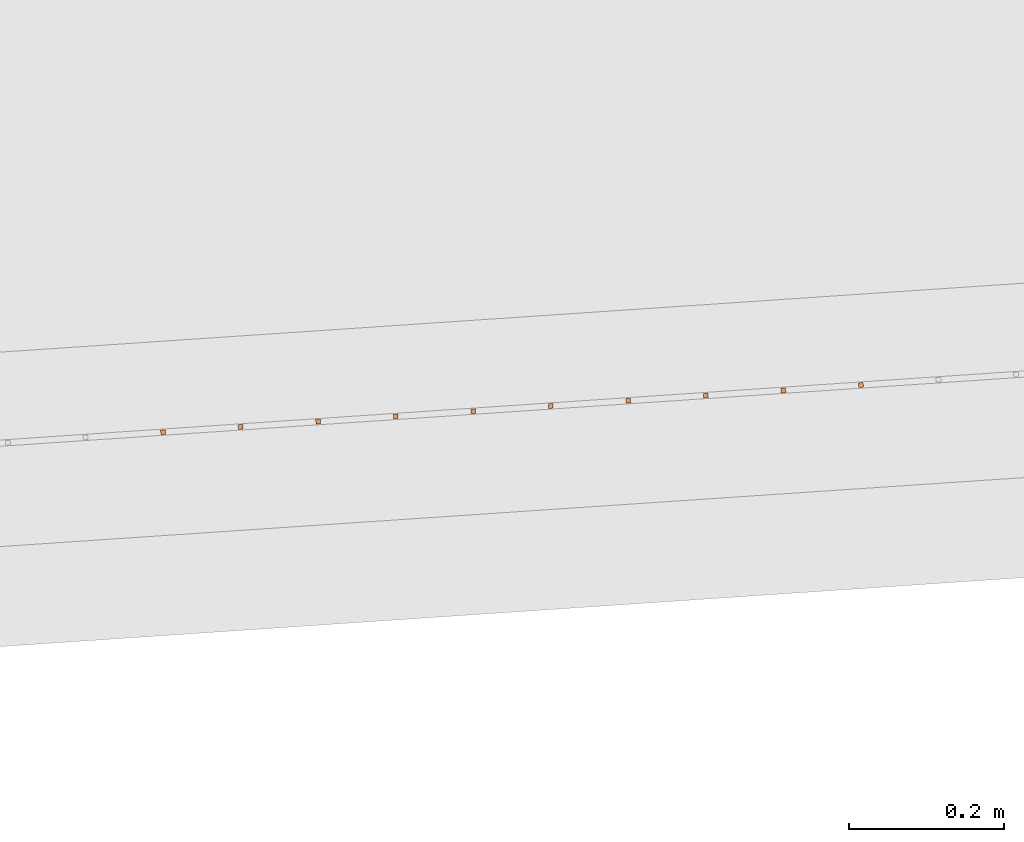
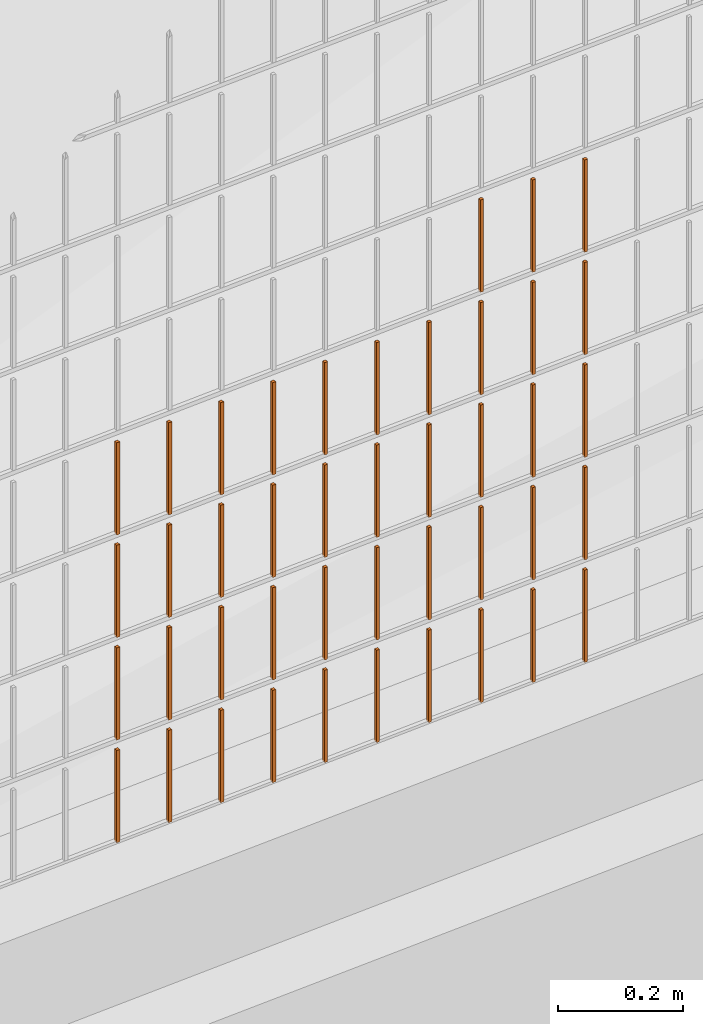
# One storey, part 77 of 1809: 43 proxies, 1 element without a shape of its own.
"""IFC2X3 building model written with IfcOpenShell, lengths in millimetres."""

from ifc_helpers import new_model, entity, si_unit, converted_unit, derived_unit, money_unit, direction, frame, origin_with_axes, place, context, subcontext, project, spatial, faceted_brep, source, transform, mapped, material, type_object, element, aggregate, save


model = new_model("IFC2X3")

# Units and contexts
model_context = context("Model", 3, precision=0.01, world=origin_with_axes(), true_north=direction((0.0, 1.0)))
body_context = subcontext(model_context, "Body", "Model", "MODEL_VIEW")
ifc_project = project(units=[si_unit("LENGTHUNIT", "METRE", prefix="MILLI"), si_unit("AREAUNIT", "SQUARE_METRE"), si_unit("VOLUMEUNIT", "CUBIC_METRE"), converted_unit("PLANEANGLEUNIT", "DEGREE", entity("IfcPlaneAngleMeasure", 0.0174532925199), si_unit("PLANEANGLEUNIT", "RADIAN"), dimensions=[0, 0, 0, 0, 0, 0, 0]), si_unit("SOLIDANGLEUNIT", "STERADIAN"), money_unit("EUR"), converted_unit("TIMEUNIT", "Year", entity("IfcTimeMeasure", 31556926.0), si_unit("TIMEUNIT", "SECOND"), dimensions=[0, 0, 1, 0, 0, 0, 0]), si_unit("MASSUNIT", "GRAM", prefix="KILO"), si_unit("THERMODYNAMICTEMPERATUREUNIT", "DEGREE_CELSIUS"), si_unit("LUMINOUSINTENSITYUNIT", "LUMEN"), si_unit("ENERGYUNIT", "JOULE", prefix="MEGA"), derived_unit("THERMALCONDUCTANCEUNIT", [(si_unit("POWERUNIT", "WATT"), 1), (si_unit("LENGTHUNIT", "METRE"), -1), (si_unit("THERMODYNAMICTEMPERATUREUNIT", "KELVIN"), -1)]), derived_unit("SPECIFICHEATCAPACITYUNIT", [(si_unit("ENERGYUNIT", "JOULE"), 1), (si_unit("MASSUNIT", "GRAM", prefix="KILO"), -1), (si_unit("THERMODYNAMICTEMPERATUREUNIT", "KELVIN"), -1)]), derived_unit("MASSDENSITYUNIT", [(si_unit("MASSUNIT", "GRAM", prefix="KILO"), 1), (si_unit("VOLUMEUNIT", "CUBIC_METRE"), -1)])], contexts=[model_context])

# Site, building, storey
site_placement = place(None, origin_with_axes())
site = spatial("IfcSite", under=ifc_project, at=site_placement, Name="Politse- ja Piirivalveameti ning Päästeameti ühishoone", CompositionType="ELEMENT")
building_placement = place(site_placement, origin_with_axes())
building = spatial("IfcBuilding", under=site, at=building_placement, Name="Politse- ja Piirivalveameti ning Päästeameti ühishoone", CompositionType="ELEMENT")
storey_placement = place(building_placement, origin_with_axes())
storey = spatial("IfcBuildingStorey", under=building, at=storey_placement, Name="Esimene korrus", CompositionType="ELEMENT", Elevation=0.0)

# Proxies
building_element_proxy_type_1 = type_object("IfcBuildingElementProxyType", Name="Railing Type", PredefinedType="NOTDEFINED")
proxy_1_placement = place(storey_placement, frame((89252.001212, -29183.4766571, 203.661247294), z_axis=(0.0, 0.0, 1.0), x_axis=(1.0, 0.0, 0.0)))
proxy_1 = element("IfcBuildingElementProxy", 1, at=proxy_1_placement, inside=storey, type_object=building_element_proxy_type_1, Name="PIIRDEAED")
ifc_material = material(Name="ET-03_Raud")
building_element_proxy_type_2 = type_object("IfcBuildingElementProxyType", Name="IfcBuildingElementProxy", PredefinedType="NOTDEFINED")
shared_shape_1 = source(origin_with_axes(), body_context, "Body", "Brep", [
    faceted_brep([(3.0, 3.0, -0.000752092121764), (-3.0, 3.0, -0.000752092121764), (-3.0, 3.0, 179.99926046), (3.0, 3.0, 179.99926046), (3.0, -3.0, 0.000752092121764), (-3.0, -3.0, 0.000752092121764), (-3.0, -3.0, 180.000764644), (3.0, -3.0, 180.000764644)], [[[0, 1, 2, 3]], [[0, 4, 5, 1]], [[1, 5, 6, 2]], [[3, 2, 6, 7]], [[4, 0, 3, 7]], [[5, 4, 7, 6]]]),
])
proxy_2_placement = place(proxy_1_placement, frame((-103391.095827, -24281.4531008, 801.255446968), z_axis=(0.0, 0.0, 1.0), x_axis=(1.0, 0.0, 0.0)))
proxy_2 = element("IfcBuildingElementProxy", 2, at=proxy_2_placement, type_object=building_element_proxy_type_2, material=ifc_material, Name="BALUSTER - 001", context=body_context, shape_type="MappedRepresentation", body=[
    mapped(shared_shape_1, transform((0.0, 0.0, 0.0), x_axis=(-0.0673926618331, 0.997726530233, 0.0), y_axis=(-0.997726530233, -0.0673926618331, 0.0), z_axis=(0.0, 0.0, 1.0))),
])
shared_shape_2 = source(origin_with_axes(), body_context, "Body", "Brep", [
    faceted_brep([(3.0, 3.0, -0.000752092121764), (-3.0, 3.0, -0.000752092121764), (-3.0, 3.0, 179.99926046), (3.0, 3.0, 179.99926046), (3.0, -3.0, 0.000752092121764), (-3.0, -3.0, 0.000752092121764), (-3.0, -3.0, 180.000764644), (3.0, -3.0, 180.000764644)], [[[0, 1, 2, 3]], [[0, 4, 5, 1]], [[1, 5, 6, 2]], [[3, 2, 6, 7]], [[4, 0, 3, 7]], [[5, 4, 7, 6]]]),
])
proxy_3_placement = place(proxy_1_placement, frame((-103590.641133, -24294.9316332, 201.205307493), z_axis=(0.0, 0.0, 1.0), x_axis=(1.0, 0.0, 0.0)))
proxy_3 = element("IfcBuildingElementProxy", 3, at=proxy_3_placement, type_object=building_element_proxy_type_2, material=ifc_material, Name="BALUSTER - 001", context=body_context, shape_type="MappedRepresentation", body=[
    mapped(shared_shape_2, transform((0.0, 0.0, 0.0), x_axis=(-0.0673926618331, 0.997726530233, 0.0), y_axis=(-0.997726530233, -0.0673926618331, 0.0), z_axis=(0.0, 0.0, 1.0))),
])
shared_shape_3 = source(origin_with_axes(), body_context, "Body", "Brep", [
    faceted_brep([(3.0, 3.0, -0.000752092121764), (-3.0, 3.0, -0.000752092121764), (-3.0, 3.0, 179.99926046), (3.0, 3.0, 179.99926046), (3.0, -3.0, 0.000752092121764), (-3.0, -3.0, 0.000752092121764), (-3.0, -3.0, 180.000764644), (3.0, -3.0, 180.000764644)], [[[0, 1, 2, 3]], [[0, 4, 5, 1]], [[1, 5, 6, 2]], [[3, 2, 6, 7]], [[4, 0, 3, 7]], [[5, 4, 7, 6]]]),
])
proxy_4_placement = place(proxy_1_placement, frame((-103391.095827, -24281.4531008, 201.255446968), z_axis=(0.0, 0.0, 1.0), x_axis=(1.0, 0.0, 0.0)))
proxy_4 = element("IfcBuildingElementProxy", 4, at=proxy_4_placement, type_object=building_element_proxy_type_2, material=ifc_material, Name="BALUSTER - 001", context=body_context, shape_type="MappedRepresentation", body=[
    mapped(shared_shape_3, transform((0.0, 0.0, 0.0), x_axis=(-0.0673926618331, 0.997726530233, 0.0), y_axis=(-0.997726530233, -0.0673926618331, 0.0), z_axis=(0.0, 0.0, 1.0))),
])
proxy_5_placement = place(proxy_1_placement, frame((-103391.095827, -24281.4531008, 401.255446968), z_axis=(0.0, 0.0, 1.0), x_axis=(1.0, 0.0, 0.0)))
proxy_5 = element("IfcBuildingElementProxy", 5, at=proxy_5_placement, type_object=building_element_proxy_type_2, material=ifc_material, Name="BALUSTER - 001", context=body_context, shape_type="MappedRepresentation", body=[
    mapped(shared_shape_3, transform((0.0, 0.0, 0.0), x_axis=(-0.0673926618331, 0.997726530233, 0.0), y_axis=(-0.997726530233, -0.0673926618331, 0.0), z_axis=(0.0, 0.0, 1.0))),
])
proxy_6_placement = place(proxy_1_placement, frame((-103590.641133, -24294.9316332, 401.205307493), z_axis=(0.0, 0.0, 1.0), x_axis=(1.0, 0.0, 0.0)))
proxy_6 = element("IfcBuildingElementProxy", 6, at=proxy_6_placement, type_object=building_element_proxy_type_2, material=ifc_material, Name="BALUSTER - 001", context=body_context, shape_type="MappedRepresentation", body=[
    mapped(shared_shape_3, transform((0.0, 0.0, 0.0), x_axis=(-0.0673926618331, 0.997726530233, 0.0), y_axis=(-0.997726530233, -0.0673926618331, 0.0), z_axis=(0.0, 0.0, 1.0))),
])
proxy_7_placement = place(proxy_1_placement, frame((-103989.731745, -24321.8886979, 401.105028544), z_axis=(0.0, 0.0, 1.0), x_axis=(1.0, 0.0, 0.0)))
proxy_7 = element("IfcBuildingElementProxy", 7, at=proxy_7_placement, type_object=building_element_proxy_type_2, material=ifc_material, Name="BALUSTER - 001", context=body_context, shape_type="MappedRepresentation", body=[
    mapped(shared_shape_3, transform((0.0, 0.0, 0.0), x_axis=(-0.0673926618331, 0.997726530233, 0.0), y_axis=(-0.997726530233, -0.0673926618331, 0.0), z_axis=(0.0, 0.0, 1.0))),
])
proxy_8_placement = place(proxy_1_placement, frame((-103391.095827, -24281.4531008, 601.255446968), z_axis=(0.0, 0.0, 1.0), x_axis=(1.0, 0.0, 0.0)))
proxy_8 = element("IfcBuildingElementProxy", 8, at=proxy_8_placement, type_object=building_element_proxy_type_2, material=ifc_material, Name="BALUSTER - 001", context=body_context, shape_type="MappedRepresentation", body=[
    mapped(shared_shape_3, transform((0.0, 0.0, 0.0), x_axis=(-0.0673926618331, 0.997726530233, 0.0), y_axis=(-0.997726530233, -0.0673926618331, 0.0), z_axis=(0.0, 0.0, 1.0))),
])
proxy_9_placement = place(proxy_1_placement, frame((-103989.731745, -24321.8886979, 601.105028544), z_axis=(0.0, 0.0, 1.0), x_axis=(1.0, 0.0, 0.0)))
proxy_9 = element("IfcBuildingElementProxy", 9, at=proxy_9_placement, type_object=building_element_proxy_type_2, material=ifc_material, Name="BALUSTER - 001", context=body_context, shape_type="MappedRepresentation", body=[
    mapped(shared_shape_3, transform((0.0, 0.0, 0.0), x_axis=(-0.0673926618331, 0.997726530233, 0.0), y_axis=(-0.997726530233, -0.0673926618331, 0.0), z_axis=(0.0, 0.0, 1.0))),
])
shared_shape_4 = source(origin_with_axes(), body_context, "Body", "Brep", [
    faceted_brep([(3.0, 3.0, -0.000752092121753), (-3.0, 3.0, -0.000752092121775), (-3.0, 3.0, 179.99926046), (3.0, 3.0, 179.99926046), (3.0, -3.0, 0.000752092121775), (-3.0, -3.0, 0.000752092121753), (-3.0, -3.0, 180.000764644), (3.0, -3.0, 180.000764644)], [[[0, 1, 2, 3]], [[0, 4, 5, 1]], [[1, 5, 6, 2]], [[3, 2, 6, 7]], [[4, 0, 3, 7]], [[5, 4, 7, 6]]]),
])
proxy_10_placement = place(proxy_1_placement, frame((-103291.323174, -24274.7138346, 1.28051670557), z_axis=(0.0, 0.0, 1.0), x_axis=(1.0, 0.0, 0.0)))
proxy_10 = element("IfcBuildingElementProxy", 10, at=proxy_10_placement, type_object=building_element_proxy_type_2, material=ifc_material, Name="BALUSTER - 001", context=body_context, shape_type="MappedRepresentation", body=[
    mapped(shared_shape_4, transform((0.0, 0.0, 0.0), x_axis=(-0.0673926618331, 0.997726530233, 0.0), y_axis=(-0.997726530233, -0.0673926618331, 0.0), z_axis=(0.0, 0.0, 1.0))),
])
proxy_11_placement = place(proxy_1_placement, frame((-103690.413786, -24301.6708994, 1.180237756), z_axis=(0.0, 0.0, 1.0), x_axis=(1.0, 0.0, 0.0)))
proxy_11 = element("IfcBuildingElementProxy", 11, at=proxy_11_placement, type_object=building_element_proxy_type_2, material=ifc_material, Name="BALUSTER - 001", context=body_context, shape_type="MappedRepresentation", body=[
    mapped(shared_shape_4, transform((0.0, 0.0, 0.0), x_axis=(-0.0673926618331, 0.997726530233, 0.0), y_axis=(-0.997726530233, -0.0673926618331, 0.0), z_axis=(0.0, 0.0, 1.0))),
])
proxy_12_placement = place(proxy_1_placement, frame((-103889.959092, -24315.1494317, 1.13009828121), z_axis=(0.0, 0.0, 1.0), x_axis=(1.0, 0.0, 0.0)))
proxy_12 = element("IfcBuildingElementProxy", 12, at=proxy_12_placement, type_object=building_element_proxy_type_2, material=ifc_material, Name="BALUSTER - 001", context=body_context, shape_type="MappedRepresentation", body=[
    mapped(shared_shape_4, transform((0.0, 0.0, 0.0), x_axis=(-0.0673926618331, 0.997726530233, 0.0), y_axis=(-0.997726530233, -0.0673926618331, 0.0), z_axis=(0.0, 0.0, 1.0))),
])
proxy_13_placement = place(proxy_1_placement, frame((-103690.413786, -24301.6708994, 201.180237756), z_axis=(0.0, 0.0, 1.0), x_axis=(1.0, 0.0, 0.0)))
proxy_13 = element("IfcBuildingElementProxy", 13, at=proxy_13_placement, type_object=building_element_proxy_type_2, material=ifc_material, Name="BALUSTER - 001", context=body_context, shape_type="MappedRepresentation", body=[
    mapped(shared_shape_4, transform((0.0, 0.0, 0.0), x_axis=(-0.0673926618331, 0.997726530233, 0.0), y_axis=(-0.997726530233, -0.0673926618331, 0.0), z_axis=(0.0, 0.0, 1.0))),
])
shared_shape_5 = source(origin_with_axes(), body_context, "Body", "Brep", [
    faceted_brep([(3.0, 3.0, -0.000752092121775), (-3.0, 3.0, -0.000752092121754), (-3.0, 3.0, 179.99926046), (3.0, 3.0, 179.99926046), (3.0, -3.0, 0.000752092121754), (-3.0, -3.0, 0.000752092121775), (-3.0, -3.0, 180.000764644), (3.0, -3.0, 180.000764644)], [[[0, 1, 2, 3]], [[0, 4, 5, 1]], [[1, 5, 6, 2]], [[3, 2, 6, 7]], [[4, 0, 3, 7]], [[5, 4, 7, 6]]]),
])
proxy_14_placement = place(proxy_1_placement, frame((-103490.86848, -24288.192367, 201.230377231), z_axis=(0.0, 0.0, 1.0), x_axis=(1.0, 0.0, 0.0)))
proxy_14 = element("IfcBuildingElementProxy", 14, at=proxy_14_placement, type_object=building_element_proxy_type_2, material=ifc_material, Name="BALUSTER - 001", context=body_context, shape_type="MappedRepresentation", body=[
    mapped(shared_shape_5, transform((0.0, 0.0, 0.0), x_axis=(-0.0673926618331, 0.997726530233, 0.0), y_axis=(-0.997726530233, -0.0673926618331, 0.0), z_axis=(0.0, 0.0, 1.0))),
])
proxy_15_placement = place(proxy_1_placement, frame((-104089.504398, -24328.6279641, 201.079958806), z_axis=(0.0, 0.0, 1.0), x_axis=(1.0, 0.0, 0.0)))
proxy_15 = element("IfcBuildingElementProxy", 15, at=proxy_15_placement, type_object=building_element_proxy_type_2, material=ifc_material, Name="BALUSTER - 001", context=body_context, shape_type="MappedRepresentation", body=[
    mapped(shared_shape_5, transform((0.0, 0.0, 0.0), x_axis=(-0.0673926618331, 0.997726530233, 0.0), y_axis=(-0.997726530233, -0.0673926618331, 0.0), z_axis=(0.0, 0.0, 1.0))),
])
proxy_16_placement = place(proxy_1_placement, frame((-104089.504398, -24328.6279641, 401.079958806), z_axis=(0.0, 0.0, 1.0), x_axis=(1.0, 0.0, 0.0)))
proxy_16 = element("IfcBuildingElementProxy", 16, at=proxy_16_placement, type_object=building_element_proxy_type_2, material=ifc_material, Name="BALUSTER - 001", context=body_context, shape_type="MappedRepresentation", body=[
    mapped(shared_shape_5, transform((0.0, 0.0, 0.0), x_axis=(-0.0673926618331, 0.997726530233, 0.0), y_axis=(-0.997726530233, -0.0673926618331, 0.0), z_axis=(0.0, 0.0, 1.0))),
])
proxy_17_placement = place(proxy_1_placement, frame((-103490.86848, -24288.192367, 601.230377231), z_axis=(0.0, 0.0, 1.0), x_axis=(1.0, 0.0, 0.0)))
proxy_17 = element("IfcBuildingElementProxy", 17, at=proxy_17_placement, type_object=building_element_proxy_type_2, material=ifc_material, Name="BALUSTER - 001", context=body_context, shape_type="MappedRepresentation", body=[
    mapped(shared_shape_5, transform((0.0, 0.0, 0.0), x_axis=(-0.0673926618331, 0.997726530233, 0.0), y_axis=(-0.997726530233, -0.0673926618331, 0.0), z_axis=(0.0, 0.0, 1.0))),
])
proxy_18_placement = place(proxy_1_placement, frame((-104089.504398, -24328.6279641, 601.079958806), z_axis=(0.0, 0.0, 1.0), x_axis=(1.0, 0.0, 0.0)))
proxy_18 = element("IfcBuildingElementProxy", 18, at=proxy_18_placement, type_object=building_element_proxy_type_2, material=ifc_material, Name="BALUSTER - 001", context=body_context, shape_type="MappedRepresentation", body=[
    mapped(shared_shape_5, transform((0.0, 0.0, 0.0), x_axis=(-0.0673926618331, 0.997726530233, 0.0), y_axis=(-0.997726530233, -0.0673926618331, 0.0), z_axis=(0.0, 0.0, 1.0))),
])
shared_shape_6 = source(origin_with_axes(), body_context, "Body", "Brep", [
    faceted_brep([(3.0, 3.0, -0.000752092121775), (-3.0, 3.0, -0.000752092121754), (-3.0, 3.0, 179.99926046), (3.0, 3.0, 179.99926046), (3.0, -3.0, 0.000752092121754), (-3.0, -3.0, 0.000752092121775), (-3.0, -3.0, 180.000764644), (3.0, -3.0, 180.000764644)], [[[0, 1, 2, 3]], [[0, 4, 5, 1]], [[1, 5, 6, 2]], [[3, 2, 6, 7]], [[4, 0, 3, 7]], [[5, 4, 7, 6]]]),
])
proxy_19_placement = place(proxy_1_placement, frame((-103490.86848, -24288.192367, 401.230377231), z_axis=(0.0, 0.0, 1.0), x_axis=(1.0, 0.0, 0.0)))
proxy_19 = element("IfcBuildingElementProxy", 19, at=proxy_19_placement, type_object=building_element_proxy_type_2, material=ifc_material, Name="BALUSTER - 001", context=body_context, shape_type="MappedRepresentation", body=[
    mapped(shared_shape_6, transform((0.0, 0.0, 0.0), x_axis=(-0.0673926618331, 0.997726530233, 0.0), y_axis=(-0.997726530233, -0.0673926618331, 0.0), z_axis=(0.0, 0.0, 1.0))),
])
shared_shape_7 = source(origin_with_axes(), body_context, "Body", "Brep", [
    faceted_brep([(3.0, 3.0, -0.000752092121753), (-3.0, 3.0, -0.000752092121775), (-3.0, 3.0, 179.99926046), (3.0, 3.0, 179.99926046), (3.0, -3.0, 0.000752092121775), (-3.0, -3.0, 0.000752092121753), (-3.0, -3.0, 180.000764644), (3.0, -3.0, 180.000764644)], [[[0, 1, 2, 3]], [[0, 4, 5, 1]], [[1, 5, 6, 2]], [[3, 2, 6, 7]], [[4, 0, 3, 7]], [[5, 4, 7, 6]]]),
])
proxy_20_placement = place(proxy_1_placement, frame((-103291.323174, -24274.7138346, 201.280516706), z_axis=(0.0, 0.0, 1.0), x_axis=(1.0, 0.0, 0.0)))
proxy_20 = element("IfcBuildingElementProxy", 20, at=proxy_20_placement, type_object=building_element_proxy_type_2, material=ifc_material, Name="BALUSTER - 001", context=body_context, shape_type="MappedRepresentation", body=[
    mapped(shared_shape_7, transform((0.0, 0.0, 0.0), x_axis=(-0.0673926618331, 0.997726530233, 0.0), y_axis=(-0.997726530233, -0.0673926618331, 0.0), z_axis=(0.0, 0.0, 1.0))),
])
proxy_21_placement = place(proxy_1_placement, frame((-103790.186439, -24308.4101656, 401.155168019), z_axis=(0.0, 0.0, 1.0), x_axis=(1.0, 0.0, 0.0)))
proxy_21 = element("IfcBuildingElementProxy", 21, at=proxy_21_placement, type_object=building_element_proxy_type_2, material=ifc_material, Name="BALUSTER - 001", context=body_context, shape_type="MappedRepresentation", body=[
    mapped(shared_shape_7, transform((0.0, 0.0, 0.0), x_axis=(-0.0673926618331, 0.997726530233, 0.0), y_axis=(-0.997726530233, -0.0673926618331, 0.0), z_axis=(0.0, 0.0, 1.0))),
])
proxy_22_placement = place(proxy_1_placement, frame((-103191.550521, -24267.9745685, 601.305586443), z_axis=(0.0, 0.0, 1.0), x_axis=(1.0, 0.0, 0.0)))
proxy_22 = element("IfcBuildingElementProxy", 22, at=proxy_22_placement, type_object=building_element_proxy_type_2, material=ifc_material, Name="BALUSTER - 001", context=body_context, shape_type="MappedRepresentation", body=[
    mapped(shared_shape_7, transform((0.0, 0.0, 0.0), x_axis=(-0.0673926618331, 0.997726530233, 0.0), y_axis=(-0.997726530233, -0.0673926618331, 0.0), z_axis=(0.0, 0.0, 1.0))),
])
proxy_23_placement = place(proxy_1_placement, frame((-103889.959092, -24315.1494317, 601.130098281), z_axis=(0.0, 0.0, 1.0), x_axis=(1.0, 0.0, 0.0)))
proxy_23 = element("IfcBuildingElementProxy", 23, at=proxy_23_placement, type_object=building_element_proxy_type_2, material=ifc_material, Name="BALUSTER - 001", context=body_context, shape_type="MappedRepresentation", body=[
    mapped(shared_shape_7, transform((0.0, 0.0, 0.0), x_axis=(-0.0673926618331, 0.997726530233, 0.0), y_axis=(-0.997726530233, -0.0673926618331, 0.0), z_axis=(0.0, 0.0, 1.0))),
])
shared_shape_8 = source(origin_with_axes(), body_context, "Body", "Brep", [
    faceted_brep([(3.0, 3.0, -0.000752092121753), (-3.0, 3.0, -0.000752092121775), (-3.0, 3.0, 179.99926046), (3.0, 3.0, 179.99926046), (3.0, -3.0, 0.000752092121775), (-3.0, -3.0, 0.000752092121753), (-3.0, -3.0, 180.000764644), (3.0, -3.0, 180.000764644)], [[[0, 1, 2, 3]], [[0, 4, 5, 1]], [[1, 5, 6, 2]], [[3, 2, 6, 7]], [[4, 0, 3, 7]], [[5, 4, 7, 6]]]),
])
proxy_24_placement = place(proxy_1_placement, frame((-103291.323174, -24274.7138346, 801.280516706), z_axis=(0.0, 0.0, 1.0), x_axis=(1.0, 0.0, 0.0)))
proxy_24 = element("IfcBuildingElementProxy", 24, at=proxy_24_placement, type_object=building_element_proxy_type_2, material=ifc_material, Name="BALUSTER - 001", context=body_context, shape_type="MappedRepresentation", body=[
    mapped(shared_shape_8, transform((0.0, 0.0, 0.0), x_axis=(-0.0673926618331, 0.997726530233, 0.0), y_axis=(-0.997726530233, -0.0673926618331, 0.0), z_axis=(0.0, 0.0, 1.0))),
])
shared_shape_9 = source(origin_with_axes(), body_context, "Body", "Brep", [
    faceted_brep([(3.0, 3.0, -0.000752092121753), (-3.0, 3.0, -0.000752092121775), (-3.0, 3.0, 179.99926046), (3.0, 3.0, 179.99926046), (3.0, -3.0, 0.000752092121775), (-3.0, -3.0, 0.000752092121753), (-3.0, -3.0, 180.000764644), (3.0, -3.0, 180.000764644)], [[[0, 1, 2, 3]], [[0, 4, 5, 1]], [[1, 5, 6, 2]], [[3, 2, 6, 7]], [[4, 0, 3, 7]], [[5, 4, 7, 6]]]),
])
proxy_25_placement = place(proxy_1_placement, frame((-103191.550521, -24267.9745685, 801.305586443), z_axis=(0.0, 0.0, 1.0), x_axis=(1.0, 0.0, 0.0)))
proxy_25 = element("IfcBuildingElementProxy", 25, at=proxy_25_placement, type_object=building_element_proxy_type_2, material=ifc_material, Name="BALUSTER - 001", context=body_context, shape_type="MappedRepresentation", body=[
    mapped(shared_shape_9, transform((0.0, 0.0, 0.0), x_axis=(-0.0673926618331, 0.997726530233, 0.0), y_axis=(-0.997726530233, -0.0673926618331, 0.0), z_axis=(0.0, 0.0, 1.0))),
])
shared_shape_10 = source(origin_with_axes(), body_context, "Body", "Brep", [
    faceted_brep([(3.0, 3.0, -0.000752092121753), (-3.0, 3.0, -0.000752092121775), (-3.0, 3.0, 179.99926046), (3.0, 3.0, 179.99926046), (3.0, -3.0, 0.000752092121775), (-3.0, -3.0, 0.000752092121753), (-3.0, -3.0, 180.000764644), (3.0, -3.0, 180.000764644)], [[[0, 1, 2, 3]], [[0, 4, 5, 1]], [[1, 5, 6, 2]], [[3, 2, 6, 7]], [[4, 0, 3, 7]], [[5, 4, 7, 6]]]),
])
proxy_26_placement = place(proxy_1_placement, frame((-103191.550521, -24267.9745685, 1.30558644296), z_axis=(0.0, 0.0, 1.0), x_axis=(1.0, 0.0, 0.0)))
proxy_26 = element("IfcBuildingElementProxy", 26, at=proxy_26_placement, type_object=building_element_proxy_type_2, material=ifc_material, Name="BALUSTER - 001", context=body_context, shape_type="MappedRepresentation", body=[
    mapped(shared_shape_10, transform((0.0, 0.0, 0.0), x_axis=(-0.0673926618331, 0.997726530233, 0.0), y_axis=(-0.997726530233, -0.0673926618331, 0.0), z_axis=(0.0, 0.0, 1.0))),
])
shared_shape_11 = source(origin_with_axes(), body_context, "Body", "Brep", [
    faceted_brep([(3.0, 3.0, -0.000752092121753), (-3.0, 3.0, -0.000752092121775), (-3.0, 3.0, 179.99926046), (3.0, 3.0, 179.99926046), (3.0, -3.0, 0.000752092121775), (-3.0, -3.0, 0.000752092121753), (-3.0, -3.0, 180.000764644), (3.0, -3.0, 180.000764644)], [[[0, 1, 2, 3]], [[0, 4, 5, 1]], [[1, 5, 6, 2]], [[3, 2, 6, 7]], [[4, 0, 3, 7]], [[5, 4, 7, 6]]]),
])
proxy_27_placement = place(proxy_1_placement, frame((-103191.550521, -24267.9745685, 201.305586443), z_axis=(0.0, 0.0, 1.0), x_axis=(1.0, 0.0, 0.0)))
proxy_27 = element("IfcBuildingElementProxy", 27, at=proxy_27_placement, type_object=building_element_proxy_type_2, material=ifc_material, Name="BALUSTER - 001", context=body_context, shape_type="MappedRepresentation", body=[
    mapped(shared_shape_11, transform((0.0, 0.0, 0.0), x_axis=(-0.0673926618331, 0.997726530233, 0.0), y_axis=(-0.997726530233, -0.0673926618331, 0.0), z_axis=(0.0, 0.0, 1.0))),
])
proxy_28_placement = place(proxy_1_placement, frame((-103790.186439, -24308.4101656, 201.155168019), z_axis=(0.0, 0.0, 1.0), x_axis=(1.0, 0.0, 0.0)))
proxy_28 = element("IfcBuildingElementProxy", 28, at=proxy_28_placement, type_object=building_element_proxy_type_2, material=ifc_material, Name="BALUSTER - 001", context=body_context, shape_type="MappedRepresentation", body=[
    mapped(shared_shape_11, transform((0.0, 0.0, 0.0), x_axis=(-0.0673926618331, 0.997726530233, 0.0), y_axis=(-0.997726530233, -0.0673926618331, 0.0), z_axis=(0.0, 0.0, 1.0))),
])
proxy_29_placement = place(proxy_1_placement, frame((-103889.959092, -24315.1494317, 201.130098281), z_axis=(0.0, 0.0, 1.0), x_axis=(1.0, 0.0, 0.0)))
proxy_29 = element("IfcBuildingElementProxy", 29, at=proxy_29_placement, type_object=building_element_proxy_type_2, material=ifc_material, Name="BALUSTER - 001", context=body_context, shape_type="MappedRepresentation", body=[
    mapped(shared_shape_11, transform((0.0, 0.0, 0.0), x_axis=(-0.0673926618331, 0.997726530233, 0.0), y_axis=(-0.997726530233, -0.0673926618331, 0.0), z_axis=(0.0, 0.0, 1.0))),
])
proxy_30_placement = place(proxy_1_placement, frame((-103191.550521, -24267.9745685, 401.305586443), z_axis=(0.0, 0.0, 1.0), x_axis=(1.0, 0.0, 0.0)))
proxy_30 = element("IfcBuildingElementProxy", 30, at=proxy_30_placement, type_object=building_element_proxy_type_2, material=ifc_material, Name="BALUSTER - 001", context=body_context, shape_type="MappedRepresentation", body=[
    mapped(shared_shape_11, transform((0.0, 0.0, 0.0), x_axis=(-0.0673926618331, 0.997726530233, 0.0), y_axis=(-0.997726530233, -0.0673926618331, 0.0), z_axis=(0.0, 0.0, 1.0))),
])
proxy_31_placement = place(proxy_1_placement, frame((-103291.323174, -24274.7138346, 401.280516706), z_axis=(0.0, 0.0, 1.0), x_axis=(1.0, 0.0, 0.0)))
proxy_31 = element("IfcBuildingElementProxy", 31, at=proxy_31_placement, type_object=building_element_proxy_type_2, material=ifc_material, Name="BALUSTER - 001", context=body_context, shape_type="MappedRepresentation", body=[
    mapped(shared_shape_11, transform((0.0, 0.0, 0.0), x_axis=(-0.0673926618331, 0.997726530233, 0.0), y_axis=(-0.997726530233, -0.0673926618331, 0.0), z_axis=(0.0, 0.0, 1.0))),
])
proxy_32_placement = place(proxy_1_placement, frame((-103690.413786, -24301.6708994, 401.180237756), z_axis=(0.0, 0.0, 1.0), x_axis=(1.0, 0.0, 0.0)))
proxy_32 = element("IfcBuildingElementProxy", 32, at=proxy_32_placement, type_object=building_element_proxy_type_2, material=ifc_material, Name="BALUSTER - 001", context=body_context, shape_type="MappedRepresentation", body=[
    mapped(shared_shape_11, transform((0.0, 0.0, 0.0), x_axis=(-0.0673926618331, 0.997726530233, 0.0), y_axis=(-0.997726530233, -0.0673926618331, 0.0), z_axis=(0.0, 0.0, 1.0))),
])
proxy_33_placement = place(proxy_1_placement, frame((-103889.959092, -24315.1494317, 401.130098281), z_axis=(0.0, 0.0, 1.0), x_axis=(1.0, 0.0, 0.0)))
proxy_33 = element("IfcBuildingElementProxy", 33, at=proxy_33_placement, type_object=building_element_proxy_type_2, material=ifc_material, Name="BALUSTER - 001", context=body_context, shape_type="MappedRepresentation", body=[
    mapped(shared_shape_11, transform((0.0, 0.0, 0.0), x_axis=(-0.0673926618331, 0.997726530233, 0.0), y_axis=(-0.997726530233, -0.0673926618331, 0.0), z_axis=(0.0, 0.0, 1.0))),
])
proxy_34_placement = place(proxy_1_placement, frame((-103291.323174, -24274.7138346, 601.280516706), z_axis=(0.0, 0.0, 1.0), x_axis=(1.0, 0.0, 0.0)))
proxy_34 = element("IfcBuildingElementProxy", 34, at=proxy_34_placement, type_object=building_element_proxy_type_2, material=ifc_material, Name="BALUSTER - 001", context=body_context, shape_type="MappedRepresentation", body=[
    mapped(shared_shape_11, transform((0.0, 0.0, 0.0), x_axis=(-0.0673926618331, 0.997726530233, 0.0), y_axis=(-0.997726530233, -0.0673926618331, 0.0), z_axis=(0.0, 0.0, 1.0))),
])
proxy_35_placement = place(proxy_1_placement, frame((-103690.413786, -24301.6708994, 601.180237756), z_axis=(0.0, 0.0, 1.0), x_axis=(1.0, 0.0, 0.0)))
proxy_35 = element("IfcBuildingElementProxy", 35, at=proxy_35_placement, type_object=building_element_proxy_type_2, material=ifc_material, Name="BALUSTER - 001", context=body_context, shape_type="MappedRepresentation", body=[
    mapped(shared_shape_11, transform((0.0, 0.0, 0.0), x_axis=(-0.0673926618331, 0.997726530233, 0.0), y_axis=(-0.997726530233, -0.0673926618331, 0.0), z_axis=(0.0, 0.0, 1.0))),
])
proxy_36_placement = place(proxy_1_placement, frame((-103790.186439, -24308.4101656, 601.155168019), z_axis=(0.0, 0.0, 1.0), x_axis=(1.0, 0.0, 0.0)))
proxy_36 = element("IfcBuildingElementProxy", 36, at=proxy_36_placement, type_object=building_element_proxy_type_2, material=ifc_material, Name="BALUSTER - 001", context=body_context, shape_type="MappedRepresentation", body=[
    mapped(shared_shape_11, transform((0.0, 0.0, 0.0), x_axis=(-0.0673926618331, 0.997726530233, 0.0), y_axis=(-0.997726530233, -0.0673926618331, 0.0), z_axis=(0.0, 0.0, 1.0))),
])
shared_shape_12 = source(origin_with_axes(), body_context, "Body", "Brep", [
    faceted_brep([(3.0, 3.0, -0.000752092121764), (-3.0, 3.0, -0.000752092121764), (-3.0, 3.0, 179.99926046), (3.0, 3.0, 179.99926046), (3.0, -3.0, 0.000752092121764), (-3.0, -3.0, 0.000752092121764), (-3.0, -3.0, 180.000764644), (3.0, -3.0, 180.000764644)], [[[0, 1, 2, 3]], [[0, 4, 5, 1]], [[1, 5, 6, 2]], [[3, 2, 6, 7]], [[4, 0, 3, 7]], [[5, 4, 7, 6]]]),
])
proxy_37_placement = place(proxy_1_placement, frame((-103989.731745, -24321.8886979, 201.105028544), z_axis=(0.0, 0.0, 1.0), x_axis=(1.0, 0.0, 0.0)))
proxy_37 = element("IfcBuildingElementProxy", 37, at=proxy_37_placement, type_object=building_element_proxy_type_2, material=ifc_material, Name="BALUSTER - 001", context=body_context, shape_type="MappedRepresentation", body=[
    mapped(shared_shape_12, transform((0.0, 0.0, 0.0), x_axis=(-0.0673926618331, 0.997726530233, 0.0), y_axis=(-0.997726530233, -0.0673926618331, 0.0), z_axis=(0.0, 0.0, 1.0))),
])
proxy_38_placement = place(proxy_1_placement, frame((-103590.641133, -24294.9316332, 601.205307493), z_axis=(0.0, 0.0, 1.0), x_axis=(1.0, 0.0, 0.0)))
proxy_38 = element("IfcBuildingElementProxy", 38, at=proxy_38_placement, type_object=building_element_proxy_type_2, material=ifc_material, Name="BALUSTER - 001", context=body_context, shape_type="MappedRepresentation", body=[
    mapped(shared_shape_12, transform((0.0, 0.0, 0.0), x_axis=(-0.0673926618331, 0.997726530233, 0.0), y_axis=(-0.997726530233, -0.0673926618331, 0.0), z_axis=(0.0, 0.0, 1.0))),
])
shared_shape_13 = source(origin_with_axes(), body_context, "Body", "Brep", [
    faceted_brep([(3.0, 3.0, -0.000752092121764), (-3.0, 3.0, -0.000752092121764), (-3.0, 3.0, 179.99926046), (3.0, 3.0, 179.99926046), (3.0, -3.0, 0.000752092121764), (-3.0, -3.0, 0.000752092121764), (-3.0, -3.0, 180.000764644), (3.0, -3.0, 180.000764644)], [[[0, 1, 2, 3]], [[0, 4, 5, 1]], [[1, 5, 6, 2]], [[3, 2, 6, 7]], [[4, 0, 3, 7]], [[5, 4, 7, 6]]]),
])
proxy_39_placement = place(proxy_1_placement, frame((-103391.095827, -24281.4531008, 1.25544696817), z_axis=(0.0, 0.0, 1.0), x_axis=(1.0, 0.0, 0.0)))
proxy_39 = element("IfcBuildingElementProxy", 39, at=proxy_39_placement, type_object=building_element_proxy_type_2, material=ifc_material, Name="BALUSTER - 001", context=body_context, shape_type="MappedRepresentation", body=[
    mapped(shared_shape_13, transform((0.0, 0.0, 0.0), x_axis=(-0.0673926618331, 0.997726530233, 0.0), y_axis=(-0.997726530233, -0.0673926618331, 0.0), z_axis=(0.0, 0.0, 1.0))),
])
proxy_40_placement = place(proxy_1_placement, frame((-103590.641133, -24294.9316332, 1.20530749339), z_axis=(0.0, 0.0, 1.0), x_axis=(1.0, 0.0, 0.0)))
proxy_40 = element("IfcBuildingElementProxy", 40, at=proxy_40_placement, type_object=building_element_proxy_type_2, material=ifc_material, Name="BALUSTER - 001", context=body_context, shape_type="MappedRepresentation", body=[
    mapped(shared_shape_13, transform((0.0, 0.0, 0.0), x_axis=(-0.0673926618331, 0.997726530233, 0.0), y_axis=(-0.997726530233, -0.0673926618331, 0.0), z_axis=(0.0, 0.0, 1.0))),
])
proxy_41_placement = place(proxy_1_placement, frame((-103989.731745, -24321.8886979, 1.10502854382), z_axis=(0.0, 0.0, 1.0), x_axis=(1.0, 0.0, 0.0)))
proxy_41 = element("IfcBuildingElementProxy", 41, at=proxy_41_placement, type_object=building_element_proxy_type_2, material=ifc_material, Name="BALUSTER - 001", context=body_context, shape_type="MappedRepresentation", body=[
    mapped(shared_shape_13, transform((0.0, 0.0, 0.0), x_axis=(-0.0673926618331, 0.997726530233, 0.0), y_axis=(-0.997726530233, -0.0673926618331, 0.0), z_axis=(0.0, 0.0, 1.0))),
])
shared_shape_14 = source(origin_with_axes(), body_context, "Body", "Brep", [
    faceted_brep([(3.0, 3.0, -0.000752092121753), (-3.0, 3.0, -0.000752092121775), (-3.0, 3.0, 179.99926046), (3.0, 3.0, 179.99926046), (3.0, -3.0, 0.000752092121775), (-3.0, -3.0, 0.000752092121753), (-3.0, -3.0, 180.000764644), (3.0, -3.0, 180.000764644)], [[[0, 1, 2, 3]], [[0, 4, 5, 1]], [[1, 5, 6, 2]], [[3, 2, 6, 7]], [[4, 0, 3, 7]], [[5, 4, 7, 6]]]),
])
proxy_42_placement = place(proxy_1_placement, frame((-103790.186439, -24308.4101656, 1.15516801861), z_axis=(0.0, 0.0, 1.0), x_axis=(1.0, 0.0, 0.0)))
proxy_42 = element("IfcBuildingElementProxy", 42, at=proxy_42_placement, type_object=building_element_proxy_type_2, material=ifc_material, Name="BALUSTER - 001", context=body_context, shape_type="MappedRepresentation", body=[
    mapped(shared_shape_14, transform((0.0, 0.0, 0.0), x_axis=(-0.0673926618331, 0.997726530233, 0.0), y_axis=(-0.997726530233, -0.0673926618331, 0.0), z_axis=(0.0, 0.0, 1.0))),
])
shared_shape_15 = source(origin_with_axes(), body_context, "Body", "Brep", [
    faceted_brep([(3.0, 3.0, -0.000752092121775), (-3.0, 3.0, -0.000752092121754), (-3.0, 3.0, 179.99926046), (3.0, 3.0, 179.99926046), (3.0, -3.0, 0.000752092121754), (-3.0, -3.0, 0.000752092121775), (-3.0, -3.0, 180.000764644), (3.0, -3.0, 180.000764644)], [[[0, 1, 2, 3]], [[0, 4, 5, 1]], [[1, 5, 6, 2]], [[3, 2, 6, 7]], [[4, 0, 3, 7]], [[5, 4, 7, 6]]]),
])
proxy_43_placement = place(proxy_1_placement, frame((-103490.86848, -24288.192367, 1.23037723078), z_axis=(0.0, 0.0, 1.0), x_axis=(1.0, 0.0, 0.0)))
proxy_43 = element("IfcBuildingElementProxy", 43, at=proxy_43_placement, type_object=building_element_proxy_type_2, material=ifc_material, Name="BALUSTER - 001", context=body_context, shape_type="MappedRepresentation", body=[
    mapped(shared_shape_15, transform((0.0, 0.0, 0.0), x_axis=(-0.0673926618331, 0.997726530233, 0.0), y_axis=(-0.997726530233, -0.0673926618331, 0.0), z_axis=(0.0, 0.0, 1.0))),
])
shared_shape_16 = source(origin_with_axes(), body_context, "Body", "Brep", [
    faceted_brep([(3.0, 3.0, -0.000752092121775), (-3.0, 3.0, -0.000752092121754), (-3.0, 3.0, 179.99926046), (3.0, 3.0, 179.99926046), (3.0, -3.0, 0.000752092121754), (-3.0, -3.0, 0.000752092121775), (-3.0, -3.0, 180.000764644), (3.0, -3.0, 180.000764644)], [[[0, 1, 2, 3]], [[0, 4, 5, 1]], [[1, 5, 6, 2]], [[3, 2, 6, 7]], [[4, 0, 3, 7]], [[5, 4, 7, 6]]]),
])
proxy_44_placement = place(proxy_1_placement, frame((-104089.504398, -24328.6279641, 1.07995880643), z_axis=(0.0, 0.0, 1.0), x_axis=(1.0, 0.0, 0.0)))
proxy_44 = element("IfcBuildingElementProxy", 44, at=proxy_44_placement, type_object=building_element_proxy_type_2, material=ifc_material, Name="BALUSTER - 001", context=body_context, shape_type="MappedRepresentation", body=[
    mapped(shared_shape_16, transform((0.0, 0.0, 0.0), x_axis=(-0.0673926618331, 0.997726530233, 0.0), y_axis=(-0.997726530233, -0.0673926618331, 0.0), z_axis=(0.0, 0.0, 1.0))),
])
aggregate(proxy_1, [proxy_26, proxy_10, proxy_39, proxy_43, proxy_40, proxy_11, proxy_42, proxy_12, proxy_41, proxy_44, proxy_27, proxy_20, proxy_4, proxy_14, proxy_3, proxy_13, proxy_28, proxy_29, proxy_37, proxy_15, proxy_30, proxy_31, proxy_5, proxy_19, proxy_6, proxy_32, proxy_21, proxy_33, proxy_7, proxy_16, proxy_22, proxy_34, proxy_8, proxy_17, proxy_38, proxy_35, proxy_36, proxy_23, proxy_9, proxy_18, proxy_25, proxy_24, proxy_2])

save(model, "model.ifc")
